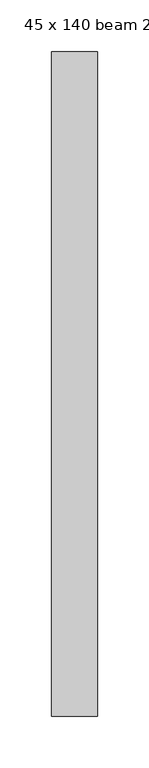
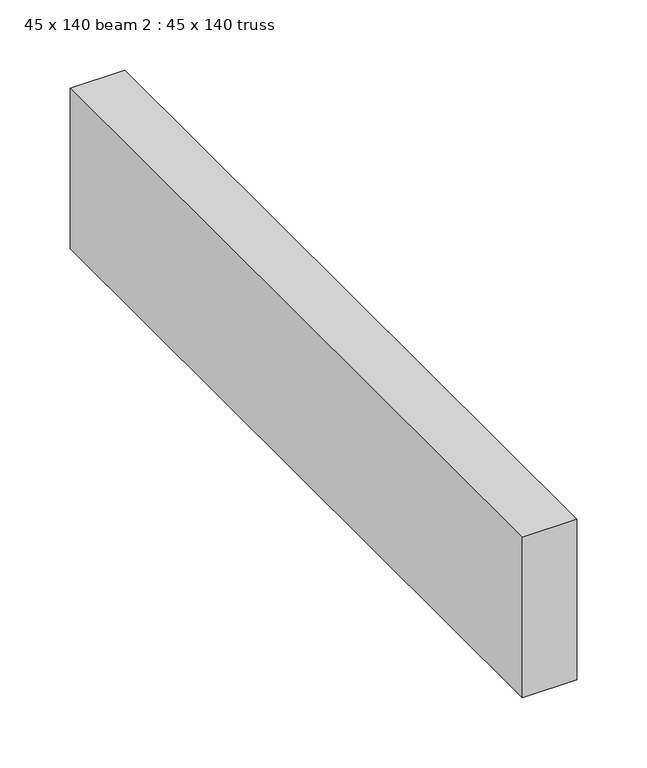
"""IFC4 building model written with IfcOpenShell, lengths in millimetres: proxy geometry, 45 x 140 beam 2 : 45 x 140 truss."""

from ifc_helpers import new_model, si_unit, frame, origin, place, context, project, spatial, polyline, outline, extrude, source, transform, mapped, element, save


def proxy_45_x_140_beam_2_45_x_140_truss_365ee18d(model_context):
    return source(origin(), model_context, "Body", "SweptSolid", [
        extrude(outline(polyline([(-27372.5216852, -23329.5415677), (-27417.5216852, -23329.5415677), (-27417.5216852, -22684.5415677), (-27372.5216852, -22684.5415677), (-27372.5216852, -23329.5415677)])), frame((0.0, 0.0, 3644.2452806), z_axis=(0.0, 0.0, 1.0), x_axis=(1.0, 0.0, 0.0)), (0.0, 0.0, 1.0), 140.0),
    ])


if __name__ == "__main__":
    model = new_model("IFC4")
    model_context = context("Model", 3, world=origin())
    ifc_project = project(units=[si_unit("LENGTHUNIT", "METRE", prefix="MILLI")], contexts=[model_context])
    site = spatial("IfcSite", under=ifc_project)
    building = spatial("IfcBuilding", under=site)
    placement = place(None, origin())
    proxy_45_x_140_beam_2_45_x_140_truss_shape = proxy_45_x_140_beam_2_45_x_140_truss_365ee18d(model_context)
    element("IfcBuildingElementProxy", 1, Name="45 x 140 beam 2 : 45 x 140 truss", ObjectType="45 x 140 beam 2 : 45 x 140 truss", at=placement, inside=building, context=model_context, shape_type="MappedRepresentation", body=[
        mapped(proxy_45_x_140_beam_2_45_x_140_truss_shape, transform((0.0, 0.0, 0.0), x_axis=(1.0, 0.0, 0.0), y_axis=(0.0, 1.0, 0.0), z_axis=(0.0, 0.0, 1.0))),
    ])
    save(model, "model.ifc")
